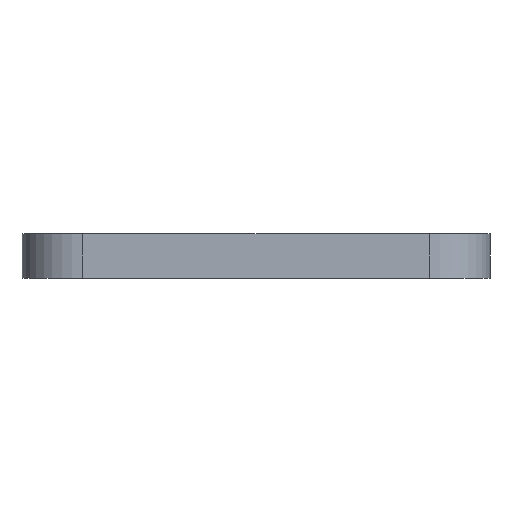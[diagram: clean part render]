
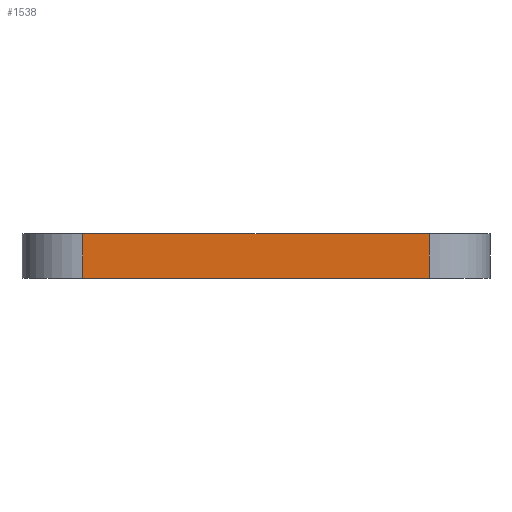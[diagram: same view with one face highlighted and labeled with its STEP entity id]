
A CAD part, front view. The second image highlights one B-rep face of the part: STEP entity #1538.
In plain terms, the highlighted planar face has unit normal (0, -1, 0).
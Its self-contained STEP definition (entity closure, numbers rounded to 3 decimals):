
#32 = PLANE('',#33);
#33 = AXIS2_PLACEMENT_3D('',#34,#35,#36);
#34 = CARTESIAN_POINT('',(-40.,-54.,10.3));
#35 = DIRECTION('',(0.,0.,1.));
#36 = DIRECTION('',(1.,0.,0.));
#114 = VERTEX_POINT('',#115);
#115 = CARTESIAN_POINT('',(-40.,-54.,10.3));
#130 = CYLINDRICAL_SURFACE('',#131,14.);
#131 = AXIS2_PLACEMENT_3D('',#132,#133,#134);
#132 = CARTESIAN_POINT('',(-40.,-40.,0.));
#133 = DIRECTION('',(-0.,-0.,-1.));
#134 = DIRECTION('',(1.,0.,0.));
#142 = EDGE_CURVE('',#114,#143,#145,.T.);
#143 = VERTEX_POINT('',#144);
#144 = CARTESIAN_POINT('',(40.,-54.,10.3));
#145 = SURFACE_CURVE('',#146,(#150,#157),.PCURVE_S1.);
#146 = LINE('',#147,#148);
#147 = CARTESIAN_POINT('',(-40.,-54.,10.3));
#148 = VECTOR('',#149,1.);
#149 = DIRECTION('',(1.,0.,0.));
#150 = PCURVE('',#32,#151);
#151 = DEFINITIONAL_REPRESENTATION('',(#152),#156);
#152 = LINE('',#153,#154);
#153 = CARTESIAN_POINT('',(0.,0.));
#154 = VECTOR('',#155,1.);
#155 = DIRECTION('',(1.,0.));
#156 = ( GEOMETRIC_REPRESENTATION_CONTEXT(2) 
PARAMETRIC_REPRESENTATION_CONTEXT() REPRESENTATION_CONTEXT('2D SPACE',''
  ) );
#157 = PCURVE('',#158,#163);
#158 = PLANE('',#159);
#159 = AXIS2_PLACEMENT_3D('',#160,#161,#162);
#160 = CARTESIAN_POINT('',(-40.,-54.,0.));
#161 = DIRECTION('',(0.,1.,0.));
#162 = DIRECTION('',(0.,0.,1.));
#163 = DEFINITIONAL_REPRESENTATION('',(#164),#168);
#164 = LINE('',#165,#166);
#165 = CARTESIAN_POINT('',(10.3,0.));
#166 = VECTOR('',#167,1.);
#167 = DIRECTION('',(0.,1.));
#168 = ( GEOMETRIC_REPRESENTATION_CONTEXT(2) 
PARAMETRIC_REPRESENTATION_CONTEXT() REPRESENTATION_CONTEXT('2D SPACE',''
  ) );
#187 = CYLINDRICAL_SURFACE('',#188,14.);
#188 = AXIS2_PLACEMENT_3D('',#189,#190,#191);
#189 = CARTESIAN_POINT('',(40.,-40.,0.));
#190 = DIRECTION('',(-0.,-0.,-1.));
#191 = DIRECTION('',(1.,0.,0.));
#633 = PLANE('',#634);
#634 = AXIS2_PLACEMENT_3D('',#635,#636,#637);
#635 = CARTESIAN_POINT('',(-40.,-40.,0.));
#636 = DIRECTION('',(0.,0.,1.));
#637 = DIRECTION('',(1.,0.,-0.));
#1494 = VERTEX_POINT('',#1495);
#1495 = CARTESIAN_POINT('',(40.,-54.,0.));
#1517 = EDGE_CURVE('',#1494,#143,#1518,.T.);
#1518 = SURFACE_CURVE('',#1519,(#1523,#1530),.PCURVE_S1.);
#1519 = LINE('',#1520,#1521);
#1520 = CARTESIAN_POINT('',(40.,-54.,0.));
#1521 = VECTOR('',#1522,1.);
#1522 = DIRECTION('',(0.,0.,1.));
#1523 = PCURVE('',#187,#1524);
#1524 = DEFINITIONAL_REPRESENTATION('',(#1525),#1529);
#1525 = LINE('',#1526,#1527);
#1526 = CARTESIAN_POINT('',(-4.712,0.));
#1527 = VECTOR('',#1528,1.);
#1528 = DIRECTION('',(-0.,-1.));
#1529 = ( GEOMETRIC_REPRESENTATION_CONTEXT(2) 
PARAMETRIC_REPRESENTATION_CONTEXT() REPRESENTATION_CONTEXT('2D SPACE',''
  ) );
#1530 = PCURVE('',#158,#1531);
#1531 = DEFINITIONAL_REPRESENTATION('',(#1532),#1536);
#1532 = LINE('',#1533,#1534);
#1533 = CARTESIAN_POINT('',(0.,80.));
#1534 = VECTOR('',#1535,1.);
#1535 = DIRECTION('',(1.,0.));
#1536 = ( GEOMETRIC_REPRESENTATION_CONTEXT(2) 
PARAMETRIC_REPRESENTATION_CONTEXT() REPRESENTATION_CONTEXT('2D SPACE',''
  ) );
#1538 = ADVANCED_FACE('',(#1539),#158,.F.);
#1539 = FACE_BOUND('',#1540,.F.);
#1540 = EDGE_LOOP('',(#1541,#1564,#1585,#1586));
#1541 = ORIENTED_EDGE('',*,*,#1542,.F.);
#1542 = EDGE_CURVE('',#1543,#1494,#1545,.T.);
#1543 = VERTEX_POINT('',#1544);
#1544 = CARTESIAN_POINT('',(-40.,-54.,0.));
#1545 = SURFACE_CURVE('',#1546,(#1550,#1557),.PCURVE_S1.);
#1546 = LINE('',#1547,#1548);
#1547 = CARTESIAN_POINT('',(-40.,-54.,0.));
#1548 = VECTOR('',#1549,1.);
#1549 = DIRECTION('',(1.,0.,0.));
#1550 = PCURVE('',#158,#1551);
#1551 = DEFINITIONAL_REPRESENTATION('',(#1552),#1556);
#1552 = LINE('',#1553,#1554);
#1553 = CARTESIAN_POINT('',(0.,0.));
#1554 = VECTOR('',#1555,1.);
#1555 = DIRECTION('',(0.,1.));
#1556 = ( GEOMETRIC_REPRESENTATION_CONTEXT(2) 
PARAMETRIC_REPRESENTATION_CONTEXT() REPRESENTATION_CONTEXT('2D SPACE',''
  ) );
#1557 = PCURVE('',#633,#1558);
#1558 = DEFINITIONAL_REPRESENTATION('',(#1559),#1563);
#1559 = LINE('',#1560,#1561);
#1560 = CARTESIAN_POINT('',(0.,-14.));
#1561 = VECTOR('',#1562,1.);
#1562 = DIRECTION('',(1.,0.));
#1563 = ( GEOMETRIC_REPRESENTATION_CONTEXT(2) 
PARAMETRIC_REPRESENTATION_CONTEXT() REPRESENTATION_CONTEXT('2D SPACE',''
  ) );
#1564 = ORIENTED_EDGE('',*,*,#1565,.T.);
#1565 = EDGE_CURVE('',#1543,#114,#1566,.T.);
#1566 = SURFACE_CURVE('',#1567,(#1571,#1578),.PCURVE_S1.);
#1567 = LINE('',#1568,#1569);
#1568 = CARTESIAN_POINT('',(-40.,-54.,0.));
#1569 = VECTOR('',#1570,1.);
#1570 = DIRECTION('',(0.,0.,1.));
#1571 = PCURVE('',#158,#1572);
#1572 = DEFINITIONAL_REPRESENTATION('',(#1573),#1577);
#1573 = LINE('',#1574,#1575);
#1574 = CARTESIAN_POINT('',(0.,0.));
#1575 = VECTOR('',#1576,1.);
#1576 = DIRECTION('',(1.,0.));
#1577 = ( GEOMETRIC_REPRESENTATION_CONTEXT(2) 
PARAMETRIC_REPRESENTATION_CONTEXT() REPRESENTATION_CONTEXT('2D SPACE',''
  ) );
#1578 = PCURVE('',#130,#1579);
#1579 = DEFINITIONAL_REPRESENTATION('',(#1580),#1584);
#1580 = LINE('',#1581,#1582);
#1581 = CARTESIAN_POINT('',(-4.712,0.));
#1582 = VECTOR('',#1583,1.);
#1583 = DIRECTION('',(-0.,-1.));
#1584 = ( GEOMETRIC_REPRESENTATION_CONTEXT(2) 
PARAMETRIC_REPRESENTATION_CONTEXT() REPRESENTATION_CONTEXT('2D SPACE',''
  ) );
#1585 = ORIENTED_EDGE('',*,*,#142,.T.);
#1586 = ORIENTED_EDGE('',*,*,#1517,.F.);
